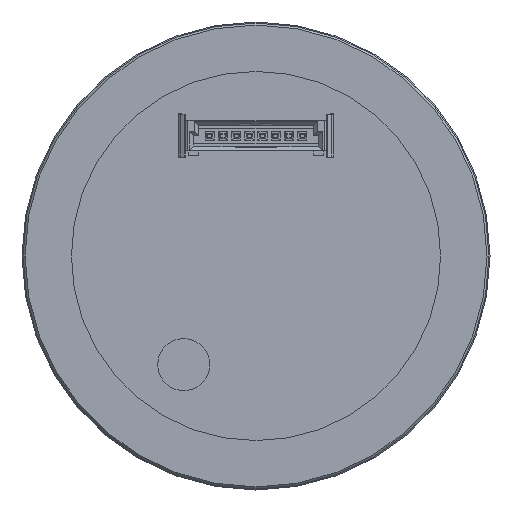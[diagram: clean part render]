
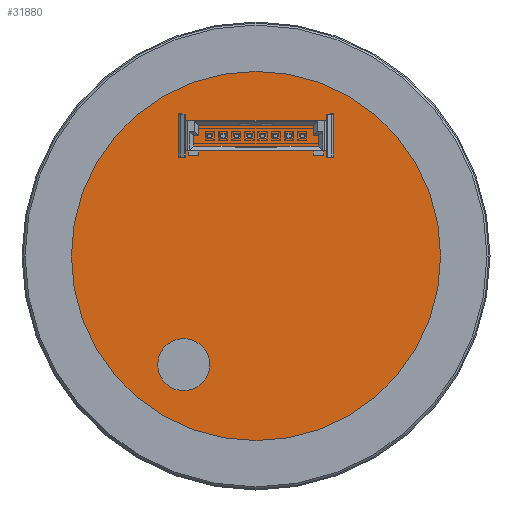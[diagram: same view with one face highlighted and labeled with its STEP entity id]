
A CAD part, front view. The second image highlights one B-rep face of the part: STEP entity #31880.
In plain terms, the highlighted planar face has unit normal (0, -1, 0).
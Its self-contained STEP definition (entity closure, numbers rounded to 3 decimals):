
#92 = CIRCLE ( 'NONE', #10611, 17.75 ) ;
#145 = EDGE_CURVE ( 'NONE', #10741, #31356, #30218, .T. ) ;
#2367 = AXIS2_PLACEMENT_3D ( 'NONE', #25284, #9463, #9220 ) ;
#3779 = VERTEX_POINT ( 'NONE', #33741 ) ;
#7463 = CIRCLE ( 'NONE', #27846, 17.75 ) ;
#7718 = CARTESIAN_POINT ( 'NONE',  ( -9.45, -5., -10.45 ) ) ;
#8676 = EDGE_LOOP ( 'NONE', ( #10594, #15174 ) ) ;
#9220 = DIRECTION ( 'NONE',  ( -1., 0., 0. ) ) ;
#9463 = DIRECTION ( 'NONE',  ( 0., -1., 0. ) ) ;
#10594 = ORIENTED_EDGE ( 'NONE', *, *, #145, .F. ) ;
#10611 = AXIS2_PLACEMENT_3D ( 'NONE', #33013, #32976, #32942 ) ;
#10741 = VERTEX_POINT ( 'NONE', #7718 ) ;
#10748 = CARTESIAN_POINT ( 'NONE',  ( 0., -5., 0. ) ) ;
#11054 = DIRECTION ( 'NONE',  ( 1., 0., 0. ) ) ;
#14166 = CARTESIAN_POINT ( 'NONE',  ( -4.45, -5., -10.45 ) ) ;
#14902 = AXIS2_PLACEMENT_3D ( 'NONE', #17965, #23072, #23028 ) ;
#15174 = ORIENTED_EDGE ( 'NONE', *, *, #32945, .F. ) ;
#16863 = DIRECTION ( 'NONE',  ( -1., 0., 0. ) ) ;
#16872 = DIRECTION ( 'NONE',  ( 0., -1., 0. ) ) ;
#16898 = CARTESIAN_POINT ( 'NONE',  ( -6.95, -5., -10.45 ) ) ;
#17965 = CARTESIAN_POINT ( 'NONE',  ( -17.75, -5., 0. ) ) ;
#18311 = ORIENTED_EDGE ( 'NONE', *, *, #32123, .T. ) ;
#20588 = FACE_OUTER_BOUND ( 'NONE', #30081, .T. ) ;
#21365 = FACE_BOUND ( 'NONE', #8676, .T. ) ;
#22004 = DIRECTION ( 'NONE',  ( 0., -1., 0. ) ) ;
#23028 = DIRECTION ( 'NONE',  ( -1., 0., 0. ) ) ;
#23072 = DIRECTION ( 'NONE',  ( 0., 1., 0. ) ) ;
#24664 = PLANE ( 'NONE',  #14902 ) ;
#24929 = ORIENTED_EDGE ( 'NONE', *, *, #30227, .T. ) ;
#25284 = CARTESIAN_POINT ( 'NONE',  ( -6.95, -5., -10.45 ) ) ;
#27846 = AXIS2_PLACEMENT_3D ( 'NONE', #10748, #22004, #11054 ) ;
#27957 = CARTESIAN_POINT ( 'NONE',  ( 17.75, -5., 0. ) ) ;
#28695 = AXIS2_PLACEMENT_3D ( 'NONE', #16898, #16872, #16863 ) ;
#29443 = CIRCLE ( 'NONE', #28695, 2.5 ) ;
#30081 = EDGE_LOOP ( 'NONE', ( #24929, #18311 ) ) ;
#30218 = CIRCLE ( 'NONE', #2367, 2.5 ) ;
#30227 = EDGE_CURVE ( 'NONE', #30877, #3779, #7463, .T. ) ;
#30877 = VERTEX_POINT ( 'NONE', #27957 ) ;
#31356 = VERTEX_POINT ( 'NONE', #14166 ) ;
#31880 = ADVANCED_FACE ( 'NONE', ( #20588, #21365 ), #24664, .F. ) ;
#32123 = EDGE_CURVE ( 'NONE', #3779, #30877, #92, .T. ) ;
#32942 = DIRECTION ( 'NONE',  ( 1., 0., 0. ) ) ;
#32945 = EDGE_CURVE ( 'NONE', #31356, #10741, #29443, .T. ) ;
#32976 = DIRECTION ( 'NONE',  ( 0., -1., 0. ) ) ;
#33013 = CARTESIAN_POINT ( 'NONE',  ( 0., -5., 0. ) ) ;
#33741 = CARTESIAN_POINT ( 'NONE',  ( -17.75, -5., 0. ) ) ;
